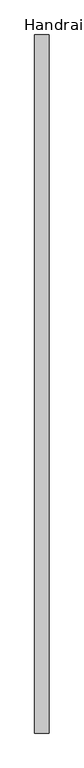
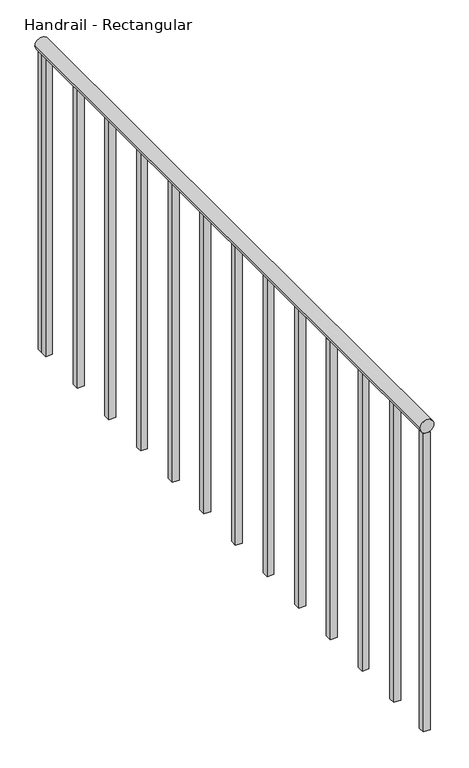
"""IFC4 building model written with IfcOpenShell, lengths in millimetres: railing geometry, Handrail - Rectangular."""

from ifc_helpers import new_model, si_unit, point, frame, frame_2d, origin, place, context, project, spatial, polyline, circle_curve, trimmed, segment, composite_curve, outline, extrude, source, transform, mapped, element, save


def handrail_rectangular_81e9a33c(model_context):
    return source(origin(), model_context, "Body", "SweptSolid", [
        extrude(outline(composite_curve([segment(trimmed(circle_curve(frame_2d((10039.35, -32167.4839563)), 19.05), [point((10039.35, -32186.5339563))], [point((10039.35, -32148.4339563))], False, "CARTESIAN"), True, "CONTINUOUS"), segment(trimmed(circle_curve(frame_2d((10039.35, -32167.4839563)), 19.05), [point((10039.35, -32148.4339563))], [point((10039.35, -32186.5339563))], False, "CARTESIAN"), True, "CONTINUOUS")], self_intersect=False)), frame((0.0, -30041.3683133, 0.0), z_axis=(0.0, 1.0, 0.0), x_axis=(0.0, 0.0, 1.0)), (0.0, 0.0, 1.0), 1854.2),
        extrude(outline(polyline([(-32157.9589563, -28222.0933133), (-32177.0089563, -28222.0933133), (-32177.0089563, -28203.0433133), (-32157.9589563, -28203.0433133), (-32157.9589563, -28222.0933133)])), frame((0.0, 0.0, 9144.0), z_axis=(0.0, 0.0, 1.0), x_axis=(1.0, 0.0, 0.0)), (0.0, 0.0, 1.0), 876.3),
        extrude(outline(polyline([(-32157.9589563, -28374.4933133), (-32177.0089563, -28374.4933133), (-32177.0089563, -28355.4433133), (-32157.9589563, -28355.4433133), (-32157.9589563, -28374.4933133)])), frame((0.0, 0.0, 9144.0), z_axis=(0.0, 0.0, 1.0), x_axis=(1.0, 0.0, 0.0)), (0.0, 0.0, 1.0), 876.3),
        extrude(outline(polyline([(-32157.9589563, -28526.8933133), (-32177.0089563, -28526.8933133), (-32177.0089563, -28507.8433133), (-32157.9589563, -28507.8433133), (-32157.9589563, -28526.8933133)])), frame((0.0, 0.0, 9144.0), z_axis=(0.0, 0.0, 1.0), x_axis=(1.0, 0.0, 0.0)), (0.0, 0.0, 1.0), 876.3),
        extrude(outline(polyline([(-32157.9589563, -28679.2933133), (-32177.0089563, -28679.2933133), (-32177.0089563, -28660.2433133), (-32157.9589563, -28660.2433133), (-32157.9589563, -28679.2933133)])), frame((0.0, 0.0, 9144.0), z_axis=(0.0, 0.0, 1.0), x_axis=(1.0, 0.0, 0.0)), (0.0, 0.0, 1.0), 876.3),
        extrude(outline(polyline([(-32157.9589563, -28831.6933133), (-32177.0089563, -28831.6933133), (-32177.0089563, -28812.6433133), (-32157.9589563, -28812.6433133), (-32157.9589563, -28831.6933133)])), frame((0.0, 0.0, 9144.0), z_axis=(0.0, 0.0, 1.0), x_axis=(1.0, 0.0, 0.0)), (0.0, 0.0, 1.0), 876.3),
        extrude(outline(polyline([(-32157.9589563, -28984.0933133), (-32177.0089563, -28984.0933133), (-32177.0089563, -28965.0433133), (-32157.9589563, -28965.0433133), (-32157.9589563, -28984.0933133)])), frame((0.0, 0.0, 9144.0), z_axis=(0.0, 0.0, 1.0), x_axis=(1.0, 0.0, 0.0)), (0.0, 0.0, 1.0), 876.3),
        extrude(outline(polyline([(-32157.9589563, -29136.4933133), (-32177.0089563, -29136.4933133), (-32177.0089563, -29117.4433133), (-32157.9589563, -29117.4433133), (-32157.9589563, -29136.4933133)])), frame((0.0, 0.0, 9144.0), z_axis=(0.0, 0.0, 1.0), x_axis=(1.0, 0.0, 0.0)), (0.0, 0.0, 1.0), 876.3),
        extrude(outline(polyline([(-32157.9589563, -29288.8933133), (-32177.0089563, -29288.8933133), (-32177.0089563, -29269.8433133), (-32157.9589563, -29269.8433133), (-32157.9589563, -29288.8933133)])), frame((0.0, 0.0, 9144.0), z_axis=(0.0, 0.0, 1.0), x_axis=(1.0, 0.0, 0.0)), (0.0, 0.0, 1.0), 876.3),
        extrude(outline(polyline([(-32157.9589563, -29441.2933133), (-32177.0089563, -29441.2933133), (-32177.0089563, -29422.2433133), (-32157.9589563, -29422.2433133), (-32157.9589563, -29441.2933133)])), frame((0.0, 0.0, 9144.0), z_axis=(0.0, 0.0, 1.0), x_axis=(1.0, 0.0, 0.0)), (0.0, 0.0, 1.0), 876.3),
        extrude(outline(polyline([(-32157.9589563, -29593.6933133), (-32177.0089563, -29593.6933133), (-32177.0089563, -29574.6433133), (-32157.9589563, -29574.6433133), (-32157.9589563, -29593.6933133)])), frame((0.0, 0.0, 9144.0), z_axis=(0.0, 0.0, 1.0), x_axis=(1.0, 0.0, 0.0)), (0.0, 0.0, 1.0), 876.3),
        extrude(outline(polyline([(-32157.9589563, -29746.0933133), (-32177.0089563, -29746.0933133), (-32177.0089563, -29727.0433133), (-32157.9589563, -29727.0433133), (-32157.9589563, -29746.0933133)])), frame((0.0, 0.0, 9144.0), z_axis=(0.0, 0.0, 1.0), x_axis=(1.0, 0.0, 0.0)), (0.0, 0.0, 1.0), 876.3),
        extrude(outline(polyline([(-32157.9589563, -29898.4933133), (-32177.0089563, -29898.4933133), (-32177.0089563, -29879.4433133), (-32157.9589563, -29879.4433133), (-32157.9589563, -29898.4933133)])), frame((0.0, 0.0, 9144.0), z_axis=(0.0, 0.0, 1.0), x_axis=(1.0, 0.0, 0.0)), (0.0, 0.0, 1.0), 876.3),
        extrude(outline(polyline([(-32157.9589563, -28206.2183133), (-32177.0089563, -28206.2183133), (-32177.0089563, -28187.1683133), (-32157.9589563, -28187.1683133), (-32157.9589563, -28206.2183133)])), frame((0.0, 0.0, 9144.0), z_axis=(0.0, 0.0, 1.0), x_axis=(1.0, 0.0, 0.0)), (0.0, 0.0, 1.0), 876.3),
        extrude(outline(polyline([(-32157.9589563, -30041.3683133), (-32177.0089563, -30041.3683133), (-32177.0089563, -30022.3183133), (-32157.9589563, -30022.3183133), (-32157.9589563, -30041.3683133)])), frame((0.0, 0.0, 9144.0), z_axis=(0.0, 0.0, 1.0), x_axis=(1.0, 0.0, 0.0)), (0.0, 0.0, 1.0), 876.3),
    ])


if __name__ == "__main__":
    model = new_model("IFC4")
    model_context = context("Model", 3, world=origin())
    ifc_project = project(units=[si_unit("LENGTHUNIT", "METRE", prefix="MILLI")], contexts=[model_context])
    site = spatial("IfcSite", under=ifc_project)
    building = spatial("IfcBuilding", under=site)
    placement = place(None, origin())
    handrail_rectangular_shape = handrail_rectangular_81e9a33c(model_context)
    element("IfcRailing", 1, ObjectType="Handrail - Rectangular", at=placement, inside=building, context=model_context, shape_type="MappedRepresentation", body=[
        mapped(handrail_rectangular_shape, transform((0.0, 0.0, 0.0), x_axis=(1.0, 0.0, 0.0), y_axis=(0.0, 1.0, 0.0), z_axis=(0.0, 0.0, 1.0))),
    ])
    save(model, "model.ifc")
